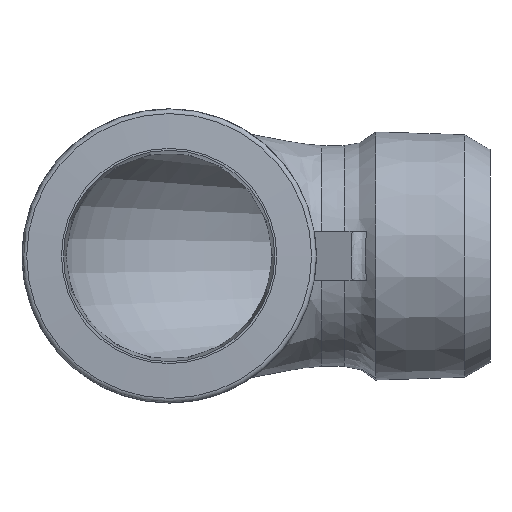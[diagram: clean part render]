
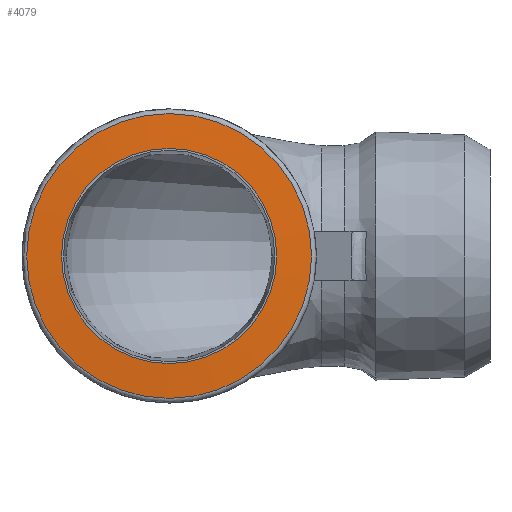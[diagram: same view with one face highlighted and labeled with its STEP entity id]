
A CAD part, front view. The second image highlights one B-rep face of the part: STEP entity #4079.
In plain terms, the highlighted conical face has half-angle 87 degrees and reference radius 25.8 mm.
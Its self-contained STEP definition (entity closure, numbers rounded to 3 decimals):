
#3472=CARTESIAN_POINT('',(21.8,0.0,0.));
#3473=VERTEX_POINT('',#3472);
#3474=CARTESIAN_POINT('',(0.0,0.0,0.0));
#3475=DIRECTION('',(0.0,1.0,0.0));
#3476=DIRECTION('',(-1.0,0.0,0.0));
#3477=AXIS2_PLACEMENT_3D('',#3474,#3475,#3476);
#3478=CIRCLE('',#3477,21.8);
#3479=EDGE_CURVE('',#3473,#3473,#3478,.T.);
#4060=CARTESIAN_POINT('',(0.0,0.21,0.0));
#4061=DIRECTION('',(0.0,1.0,0.0));
#4062=DIRECTION('',(-1.0,0.0,0.0));
#4063=AXIS2_PLACEMENT_3D('',#4060,#4061,#4062);
#4064=CONICAL_SURFACE('',#4063,25.8,87.);
#4065=ORIENTED_EDGE('',*,*,#3479,.T.);
#4066=EDGE_LOOP('',(#4065));
#4067=FACE_OUTER_BOUND('',#4066,.T.);
#4068=CARTESIAN_POINT('',(28.852,0.37,0.));
#4069=VERTEX_POINT('',#4068);
#4070=CARTESIAN_POINT('',(0.0,0.37,0.));
#4071=DIRECTION('',(0.0,1.0,0.0));
#4072=DIRECTION('',(-1.0,0.0,0.0));
#4073=AXIS2_PLACEMENT_3D('',#4070,#4071,#4072);
#4074=CIRCLE('',#4073,28.852);
#4075=EDGE_CURVE('',#4069,#4069,#4074,.T.);
#4076=ORIENTED_EDGE('',*,*,#4075,.F.);
#4077=EDGE_LOOP('',(#4076));
#4078=FACE_BOUND('',#4077,.T.);
#4079=ADVANCED_FACE('',(#4067,#4078),#4064,.T.);
